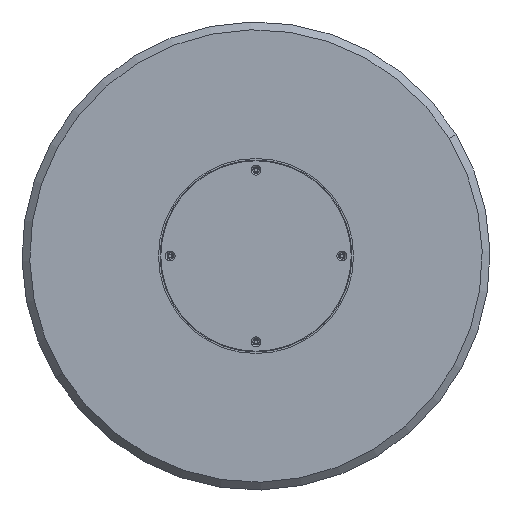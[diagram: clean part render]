
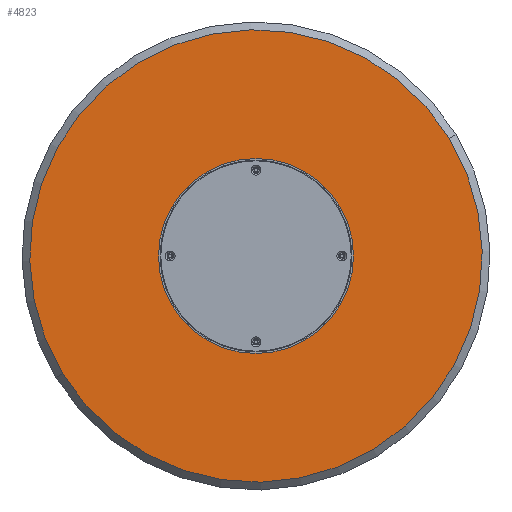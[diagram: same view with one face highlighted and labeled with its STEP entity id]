
A CAD part, front view. The second image highlights one B-rep face of the part: STEP entity #4823.
In plain terms, the highlighted planar face has unit normal (0, -1, 0).
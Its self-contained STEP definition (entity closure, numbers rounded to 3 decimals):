
#15 = ORIENTED_EDGE ( 'NONE', *, *, #6236, .F. ) ;
#418 = AXIS2_PLACEMENT_3D ( 'NONE', #3365, #889, #3847 ) ;
#435 = CARTESIAN_POINT ( 'NONE',  ( 0., 0., 57.735 ) ) ;
#521 = DIRECTION ( 'NONE',  ( 0., 0., -1. ) ) ;
#572 = DIRECTION ( 'NONE',  ( 0., -1., 0. ) ) ;
#709 = CARTESIAN_POINT ( 'NONE',  ( 0., 0., 57.735 ) ) ;
#841 = FACE_OUTER_BOUND ( 'NONE', #3234, .T. ) ;
#889 = DIRECTION ( 'NONE',  ( 0., -1., 0. ) ) ;
#904 = EDGE_CURVE ( 'NONE', #5015, #3651, #3043, .T. ) ;
#1058 = EDGE_LOOP ( 'NONE', ( #15, #2617 ) ) ;
#1166 = DIRECTION ( 'NONE',  ( 0., -1., 0. ) ) ;
#1195 = CARTESIAN_POINT ( 'NONE',  ( -50., 0., -28.868 ) ) ;
#1287 = DIRECTION ( 'NONE',  ( 0., 0., -1. ) ) ;
#1306 = FACE_BOUND ( 'NONE', #2020, .T. ) ;
#1310 = CARTESIAN_POINT ( 'NONE',  ( 50., 0., -25.468 ) ) ;
#1315 = AXIS2_PLACEMENT_3D ( 'NONE', #435, #4447, #521 ) ;
#1560 = VERTEX_POINT ( 'NONE', #1310 ) ;
#1662 = CARTESIAN_POINT ( 'NONE',  ( 0., 0., 0. ) ) ;
#1735 = DIRECTION ( 'NONE',  ( 0., 0., -1. ) ) ;
#1772 = ORIENTED_EDGE ( 'NONE', *, *, #3033, .F. ) ;
#1839 = CIRCLE ( 'NONE', #4016, 3.4 ) ;
#1882 = EDGE_CURVE ( 'NONE', #4071, #1560, #5436, .T. ) ;
#1887 = CIRCLE ( 'NONE', #418, 290. ) ;
#2020 = EDGE_LOOP ( 'NONE', ( #5942, #4677 ) ) ;
#2027 = DIRECTION ( 'NONE',  ( 0., 0., -1. ) ) ;
#2175 = CARTESIAN_POINT ( 'NONE',  ( 0., 0., 0. ) ) ;
#2341 = CARTESIAN_POINT ( 'NONE',  ( -50., 0., -28.868 ) ) ;
#2617 = ORIENTED_EDGE ( 'NONE', *, *, #904, .F. ) ;
#2706 = AXIS2_PLACEMENT_3D ( 'NONE', #1662, #1166, #3728 ) ;
#2721 = DIRECTION ( 'NONE',  ( 0., 0., -1. ) ) ;
#2738 = CIRCLE ( 'NONE', #3572, 3.4 ) ;
#2778 = EDGE_LOOP ( 'NONE', ( #6080, #4045 ) ) ;
#2819 = FACE_BOUND ( 'NONE', #1058, .T. ) ;
#2855 = DIRECTION ( 'NONE',  ( 0., -1., 0. ) ) ;
#2870 = VERTEX_POINT ( 'NONE', #3591 ) ;
#2946 = ORIENTED_EDGE ( 'NONE', *, *, #3180, .T. ) ;
#2994 = VERTEX_POINT ( 'NONE', #6105 ) ;
#3028 = AXIS2_PLACEMENT_3D ( 'NONE', #1195, #5615, #5189 ) ;
#3033 = EDGE_CURVE ( 'NONE', #2870, #5686, #5960, .T. ) ;
#3043 = CIRCLE ( 'NONE', #3670, 3.4 ) ;
#3180 = EDGE_CURVE ( 'NONE', #5476, #4717, #1887, .T. ) ;
#3234 = EDGE_LOOP ( 'NONE', ( #5200, #2946 ) ) ;
#3278 = VERTEX_POINT ( 'NONE', #5816 ) ;
#3309 = FACE_BOUND ( 'NONE', #2778, .T. ) ;
#3346 = CARTESIAN_POINT ( 'NONE',  ( 50., 0., -28.868 ) ) ;
#3365 = CARTESIAN_POINT ( 'NONE',  ( 0., 0., 0. ) ) ;
#3408 = AXIS2_PLACEMENT_3D ( 'NONE', #3905, #6301, #1287 ) ;
#3572 = AXIS2_PLACEMENT_3D ( 'NONE', #2341, #3901, #2027 ) ;
#3591 = CARTESIAN_POINT ( 'NONE',  ( -50., 0., -32.268 ) ) ;
#3610 = CARTESIAN_POINT ( 'NONE',  ( 50., 0., -32.268 ) ) ;
#3651 = VERTEX_POINT ( 'NONE', #4396 ) ;
#3670 = AXIS2_PLACEMENT_3D ( 'NONE', #2175, #4129, #4518 ) ;
#3728 = DIRECTION ( 'NONE',  ( 0., 0., -1. ) ) ;
#3847 = DIRECTION ( 'NONE',  ( 0., 0., -1. ) ) ;
#3901 = DIRECTION ( 'NONE',  ( 0., -1., 0. ) ) ;
#3905 = CARTESIAN_POINT ( 'NONE',  ( 0., 0., 0. ) ) ;
#3956 = CIRCLE ( 'NONE', #6049, 3.4 ) ;
#4016 = AXIS2_PLACEMENT_3D ( 'NONE', #4147, #4218, #1735 ) ;
#4045 = ORIENTED_EDGE ( 'NONE', *, *, #6396, .F. ) ;
#4071 = VERTEX_POINT ( 'NONE', #3610 ) ;
#4129 = DIRECTION ( 'NONE',  ( 0., -1., 0. ) ) ;
#4137 = CARTESIAN_POINT ( 'NONE',  ( 0., 0., -290. ) ) ;
#4147 = CARTESIAN_POINT ( 'NONE',  ( 50., 0., -28.868 ) ) ;
#4218 = DIRECTION ( 'NONE',  ( 0., -1., 0. ) ) ;
#4333 = EDGE_CURVE ( 'NONE', #5686, #2870, #2738, .T. ) ;
#4369 = ORIENTED_EDGE ( 'NONE', *, *, #4333, .F. ) ;
#4396 = CARTESIAN_POINT ( 'NONE',  ( 0., 0., -3.4 ) ) ;
#4441 = EDGE_LOOP ( 'NONE', ( #1772, #4369 ) ) ;
#4447 = DIRECTION ( 'NONE',  ( 0., -1., 0. ) ) ;
#4518 = DIRECTION ( 'NONE',  ( 0., 0., -1. ) ) ;
#4672 = EDGE_CURVE ( 'NONE', #2994, #3278, #3956, .T. ) ;
#4677 = ORIENTED_EDGE ( 'NONE', *, *, #5032, .F. ) ;
#4717 = VERTEX_POINT ( 'NONE', #5736 ) ;
#4812 = PLANE ( 'NONE',  #6461 ) ;
#4823 = ADVANCED_FACE ( 'NONE', ( #5772, #1306, #3309, #2819, #841 ), #4812, .T. ) ;
#4845 = DIRECTION ( 'NONE',  ( 0., -1., 0. ) ) ;
#4876 = CIRCLE ( 'NONE', #1315, 3.4 ) ;
#4877 = EDGE_CURVE ( 'NONE', #4717, #5476, #5522, .T. ) ;
#4912 = AXIS2_PLACEMENT_3D ( 'NONE', #3346, #572, #5560 ) ;
#5015 = VERTEX_POINT ( 'NONE', #5231 ) ;
#5032 = EDGE_CURVE ( 'NONE', #1560, #4071, #1839, .T. ) ;
#5179 = CIRCLE ( 'NONE', #3408, 3.4 ) ;
#5189 = DIRECTION ( 'NONE',  ( 0., 0., -1. ) ) ;
#5200 = ORIENTED_EDGE ( 'NONE', *, *, #4877, .T. ) ;
#5231 = CARTESIAN_POINT ( 'NONE',  ( 0., 0., 3.4 ) ) ;
#5436 = CIRCLE ( 'NONE', #4912, 3.4 ) ;
#5476 = VERTEX_POINT ( 'NONE', #4137 ) ;
#5522 = CIRCLE ( 'NONE', #2706, 290. ) ;
#5560 = DIRECTION ( 'NONE',  ( 0., 0., -1. ) ) ;
#5615 = DIRECTION ( 'NONE',  ( 0., -1., 0. ) ) ;
#5686 = VERTEX_POINT ( 'NONE', #6366 ) ;
#5736 = CARTESIAN_POINT ( 'NONE',  ( 0., 0., 290. ) ) ;
#5772 = FACE_BOUND ( 'NONE', #4441, .T. ) ;
#5816 = CARTESIAN_POINT ( 'NONE',  ( 0., 0., 61.135 ) ) ;
#5829 = CARTESIAN_POINT ( 'NONE',  ( 0., 0., 0. ) ) ;
#5942 = ORIENTED_EDGE ( 'NONE', *, *, #1882, .F. ) ;
#5960 = CIRCLE ( 'NONE', #3028, 3.4 ) ;
#6049 = AXIS2_PLACEMENT_3D ( 'NONE', #709, #4845, #2721 ) ;
#6080 = ORIENTED_EDGE ( 'NONE', *, *, #4672, .F. ) ;
#6105 = CARTESIAN_POINT ( 'NONE',  ( 0., 0., 54.335 ) ) ;
#6236 = EDGE_CURVE ( 'NONE', #3651, #5015, #5179, .T. ) ;
#6301 = DIRECTION ( 'NONE',  ( 0., -1., 0. ) ) ;
#6366 = CARTESIAN_POINT ( 'NONE',  ( -50., 0., -25.468 ) ) ;
#6383 = DIRECTION ( 'NONE',  ( 0., 0., -1. ) ) ;
#6396 = EDGE_CURVE ( 'NONE', #3278, #2994, #4876, .T. ) ;
#6461 = AXIS2_PLACEMENT_3D ( 'NONE', #5829, #2855, #6383 ) ;
